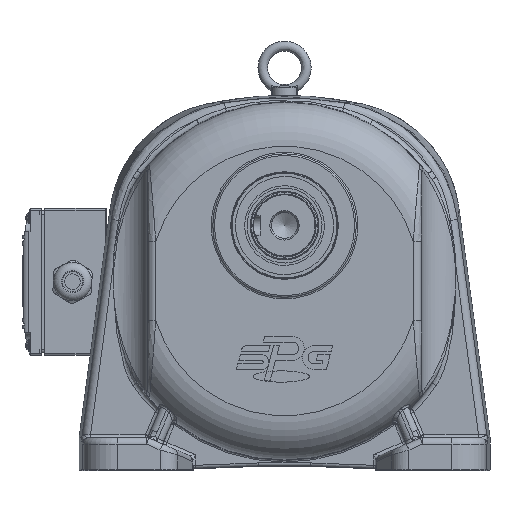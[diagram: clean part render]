
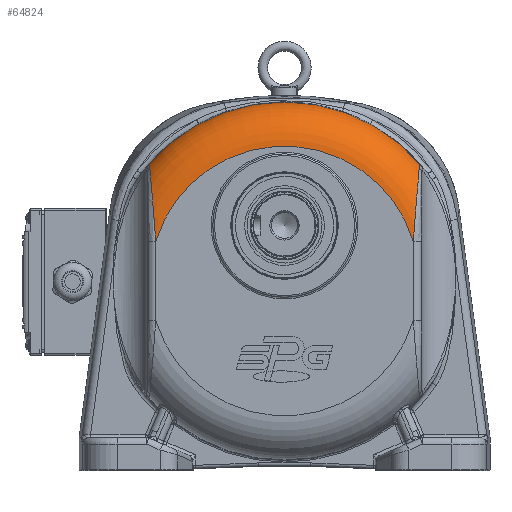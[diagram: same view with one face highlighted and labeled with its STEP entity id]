
A CAD part, top view. The second image highlights one B-rep face of the part: STEP entity #64824.
In plain terms, the highlighted toroidal (fillet/blend) face has major radius 82.678 mm and minor radius 27 mm.
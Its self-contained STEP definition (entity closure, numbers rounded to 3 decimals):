
#1001=TOROIDAL_SURFACE('',#70548,82.678,27.);
#11334=FACE_OUTER_BOUND('',#15421,.T.);
#15421=EDGE_LOOP('',(#47463,#47464,#47465,#47466,#47467,#47468));
#18978=CIRCLE('',#69187,109.669);
#19650=CIRCLE('',#70525,82.678);
#21947=B_SPLINE_CURVE_WITH_KNOTS('',3,(#100010,#100011,#100012,#100013,
#100014),.UNSPECIFIED.,.F.,.F.,(4,1,4),(-0.783,-0.335,
0.),.UNSPECIFIED.);
#21955=B_SPLINE_CURVE_WITH_KNOTS('',3,(#100224,#100225,#100226,#100227,
#100228),.UNSPECIFIED.,.F.,.F.,(4,1,4),(-0.783,-0.447,
0.),.UNSPECIFIED.);
#22207=B_SPLINE_CURVE_WITH_KNOTS('',3,(#111615,#111616,#111617,#111618,
#111619,#111620,#111621,#111622,#111623),.UNSPECIFIED.,.F.,.F.,(4,1,1,1,
1,1,4),(-14.071,-13.415,-12.758,-12.43,
-12.101,-10.788,-9.474),.UNSPECIFIED.);
#22208=B_SPLINE_CURVE_WITH_KNOTS('',3,(#111624,#111625,#111626,#111627,
#111628,#111629,#111630,#111631,#111632),.UNSPECIFIED.,.F.,.F.,(4,1,1,1,
1,1,4),(-4.597,-3.284,-1.97,-1.642,
-1.313,-0.657,0.),.UNSPECIFIED.);
#25834=VERTEX_POINT('',#100006);
#25836=VERTEX_POINT('',#100009);
#25846=VERTEX_POINT('',#100220);
#25848=VERTEX_POINT('',#100223);
#26836=VERTEX_POINT('',#111507);
#26837=VERTEX_POINT('',#111509);
#32459=EDGE_CURVE('',#25834,#25836,#21947,.T.);
#32473=EDGE_CURVE('',#25846,#25848,#21955,.T.);
#32523=EDGE_CURVE('',#25846,#25836,#18978,.T.);
#34157=EDGE_CURVE('',#26837,#26836,#19650,.T.);
#34211=EDGE_CURVE('',#25848,#26836,#22207,.T.);
#34212=EDGE_CURVE('',#26837,#25834,#22208,.T.);
#47463=ORIENTED_EDGE('',*,*,#34157,.T.);
#47464=ORIENTED_EDGE('',*,*,#34211,.F.);
#47465=ORIENTED_EDGE('',*,*,#32473,.F.);
#47466=ORIENTED_EDGE('',*,*,#32523,.T.);
#47467=ORIENTED_EDGE('',*,*,#32459,.F.);
#47468=ORIENTED_EDGE('',*,*,#34212,.F.);
#64824=ADVANCED_FACE('',(#11334),#1001,.T.);
#69187=AXIS2_PLACEMENT_3D('',#100470,#79316,#79317);
#70525=AXIS2_PLACEMENT_3D('',#111510,#82542,#82543);
#70548=AXIS2_PLACEMENT_3D('',#111614,#82619,#82620);
#79316=DIRECTION('center_axis',(0.,0.,1.));
#79317=DIRECTION('ref_axis',(-1.,0.,0.));
#82542=DIRECTION('center_axis',(0.,0.,-1.));
#82543=DIRECTION('ref_axis',(-1.,0.,0.));
#82619=DIRECTION('center_axis',(0.,0.,-1.));
#82620=DIRECTION('ref_axis',(-1.,0.,0.));
#100006=CARTESIAN_POINT('',(-79.676,69.434,71.818));
#100009=CARTESIAN_POINT('',(-81.021,70.692,62.686));
#100010=CARTESIAN_POINT('Ctrl Pts',(-79.676,69.434,
71.818));
#100011=CARTESIAN_POINT('Ctrl Pts',(-79.745,70.301,
70.254));
#100012=CARTESIAN_POINT('Ctrl Pts',(-80.033,71.351,
67.114));
#100013=CARTESIAN_POINT('Ctrl Pts',(-80.697,71.028,63.945));
#100014=CARTESIAN_POINT('Ctrl Pts',(-81.021,70.692,62.686));
#100220=CARTESIAN_POINT('',(86.803,70.692,62.686));
#100223=CARTESIAN_POINT('',(85.457,69.434,71.818));
#100224=CARTESIAN_POINT('Ctrl Pts',(86.803,70.692,62.686));
#100225=CARTESIAN_POINT('Ctrl Pts',(86.478,71.028,63.945));
#100226=CARTESIAN_POINT('Ctrl Pts',(85.809,71.346,67.149));
#100227=CARTESIAN_POINT('Ctrl Pts',(85.527,70.301,70.254));
#100228=CARTESIAN_POINT('Ctrl Pts',(85.457,69.434,71.818));
#100470=CARTESIAN_POINT('Origin',(2.891,0.08,62.686));
#111507=CARTESIAN_POINT('',(81.891,24.465,89.));
#111509=CARTESIAN_POINT('',(-76.109,24.465,89.));
#111510=CARTESIAN_POINT('Origin',(2.891,0.08,89.));
#111614=CARTESIAN_POINT('Origin',(2.891,0.08,62.));
#111615=CARTESIAN_POINT('Ctrl Pts',(85.457,69.434,71.818));
#111616=CARTESIAN_POINT('Ctrl Pts',(85.355,68.161,74.115));
#111617=CARTESIAN_POINT('Ctrl Pts',(85.085,64.816,78.204));
#111618=CARTESIAN_POINT('Ctrl Pts',(84.661,59.673,81.832));
#111619=CARTESIAN_POINT('Ctrl Pts',(84.291,55.253,84.054));
#111620=CARTESIAN_POINT('Ctrl Pts',(83.726,48.507,86.724));
#111621=CARTESIAN_POINT('Ctrl Pts',(82.842,37.972,88.739));
#111622=CARTESIAN_POINT('Ctrl Pts',(82.171,28.932,89.));
#111623=CARTESIAN_POINT('Ctrl Pts',(81.891,24.465,89.));
#111624=CARTESIAN_POINT('Ctrl Pts',(-76.109,24.465,
89.));
#111625=CARTESIAN_POINT('Ctrl Pts',(-76.39,28.932,
89.));
#111626=CARTESIAN_POINT('Ctrl Pts',(-77.061,37.972,
88.739));
#111627=CARTESIAN_POINT('Ctrl Pts',(-77.944,48.507,
86.724));
#111628=CARTESIAN_POINT('Ctrl Pts',(-78.51,55.253,
84.054));
#111629=CARTESIAN_POINT('Ctrl Pts',(-78.879,59.673,
81.832));
#111630=CARTESIAN_POINT('Ctrl Pts',(-79.304,64.816,78.204));
#111631=CARTESIAN_POINT('Ctrl Pts',(-79.574,68.161,
74.115));
#111632=CARTESIAN_POINT('Ctrl Pts',(-79.676,69.434,
71.818));
